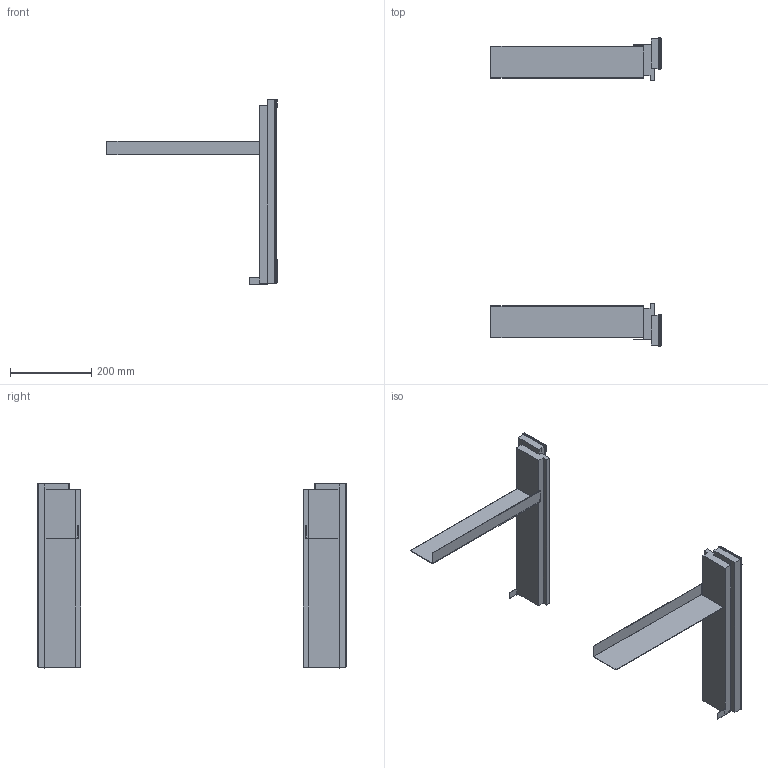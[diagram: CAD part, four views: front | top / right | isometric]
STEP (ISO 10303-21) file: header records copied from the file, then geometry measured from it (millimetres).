
FILE_DESCRIPTION ((), '1');
FILE_NAME ('P:\Miele_2015\Lowpoly\Altgeraete\export\22996197USA_EBA6808_CLST.step', '2015-12-02T15:29:27', ('Unknown'), ('nPowerSoftware.com'), 'HarmonyWare STEP v1.9.7-dev', 'nPower Software, LLC', '');
FILE_SCHEMA (('CONFIG_CONTROL_DESIGN'));
Length unit declared in the file: millimetre
Products named in the file (10): product-name
Bounding box: 417.37 x 756.68 x 456.46 mm (x, y, z)
Volume: 329848.5 mm3; surface area: 610244.6 mm2
Topology: 6 solids, 63 shells, 185 faces, 580 edges, 455 vertices
Faces by surface type: bspline 185
Entity records: 13205 total; most frequent: CARTESIAN_POINT 9183, ORIENTED_EDGE 856, EDGE_CURVE 576, B_SPLINE_CURVE_WITH_KNOTS 472, VERTEX_POINT 455, EDGE_LOOP 185, FACE_OUTER_BOUND 185, ADVANCED_FACE 185
